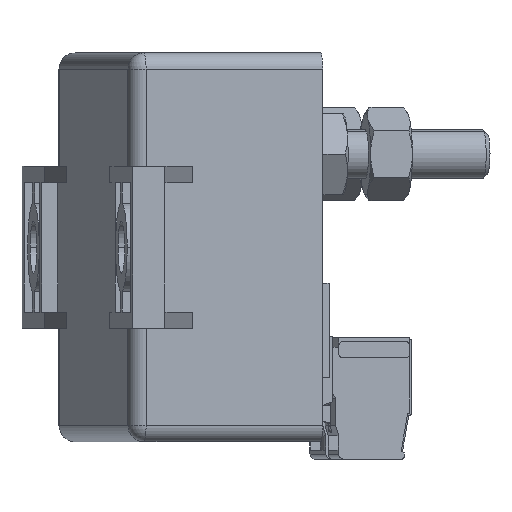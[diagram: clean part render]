
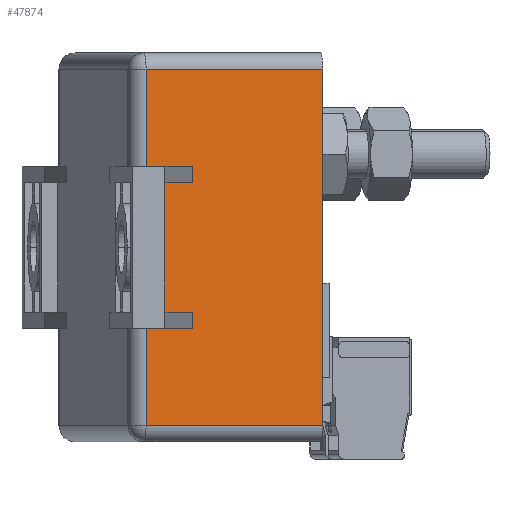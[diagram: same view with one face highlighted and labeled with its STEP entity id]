
A CAD part, left-side view. The second image highlights one B-rep face of the part: STEP entity #47874.
In plain terms, the highlighted planar face has unit normal (-0.992, -0.129, 0) as drawn and (-1, 0, 0) by its records, which use the part's own axes.
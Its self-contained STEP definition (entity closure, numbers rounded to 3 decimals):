
#370 = VERTEX_POINT ( 'NONE', #44954 ) ;
#2227 = EDGE_LOOP ( 'NONE', ( #60368, #46295, #107190, #32081, #90122, #103476, #106651, #87413, #45738, #91877, #113002, #32511 ) ) ;
#4919 = VECTOR ( 'NONE', #58032, 1000. ) ;
#6966 = EDGE_CURVE ( 'NONE', #370, #68008, #76333, .T. ) ;
#8466 = CARTESIAN_POINT ( 'NONE',  ( -35., -10., 7.799 ) ) ;
#9313 = CARTESIAN_POINT ( 'NONE',  ( -35., -10., 2.8 ) ) ;
#9825 = VERTEX_POINT ( 'NONE', #8466 ) ;
#18069 = VERTEX_POINT ( 'NONE', #112800 ) ;
#18669 = CARTESIAN_POINT ( 'NONE',  ( -35., -22., 2. ) ) ;
#18751 = DIRECTION ( 'NONE',  ( 0., 0., -1. ) ) ;
#18823 = CARTESIAN_POINT ( 'NONE',  ( -35., 22., 2. ) ) ;
#24483 = CARTESIAN_POINT ( 'NONE',  ( -35., 22., 2.8 ) ) ;
#26514 = LINE ( 'NONE', #64737, #36711 ) ;
#27117 = DIRECTION ( 'NONE',  ( 0., 0., 1. ) ) ;
#28187 = LINE ( 'NONE', #66403, #45882 ) ;
#28761 = EDGE_CURVE ( 'NONE', #84322, #9825, #61722, .T. ) ;
#31252 = VECTOR ( 'NONE', #120179, 1000. ) ;
#32081 = ORIENTED_EDGE ( 'NONE', *, *, #51615, .F. ) ;
#32511 = ORIENTED_EDGE ( 'NONE', *, *, #28761, .T. ) ;
#33728 = LINE ( 'NONE', #109537, #74527 ) ;
#33792 = VERTEX_POINT ( 'NONE', #50808 ) ;
#36711 = VECTOR ( 'NONE', #122373, 1000. ) ;
#38049 = DIRECTION ( 'NONE',  ( 0., -1., 0. ) ) ;
#43887 = EDGE_CURVE ( 'NONE', #9825, #370, #57565, .T. ) ;
#44579 = DIRECTION ( 'NONE',  ( 1., 0., 0. ) ) ;
#44954 = CARTESIAN_POINT ( 'NONE',  ( -35., -10., 2. ) ) ;
#45738 = ORIENTED_EDGE ( 'NONE', *, *, #104089, .F. ) ;
#45882 = VECTOR ( 'NONE', #104008, 1000. ) ;
#46295 = ORIENTED_EDGE ( 'NONE', *, *, #6966, .T. ) ;
#46486 = AXIS2_PLACEMENT_3D ( 'NONE', #24483, #44579, #82185 ) ;
#47874 = ADVANCED_FACE ( 'NONE', ( #81558 ), #72139, .F. ) ;
#49858 = VECTOR ( 'NONE', #94181, 1000. ) ;
#49993 = VERTEX_POINT ( 'NONE', #57675 ) ;
#50024 = VERTEX_POINT ( 'NONE', #18823 ) ;
#50808 = CARTESIAN_POINT ( 'NONE',  ( -35., 10., 2. ) ) ;
#51615 = EDGE_CURVE ( 'NONE', #63240, #93137, #66214, .T. ) ;
#52808 = VECTOR ( 'NONE', #103386, 1000. ) ;
#56465 = EDGE_CURVE ( 'NONE', #93137, #68008, #102007, .T. ) ;
#57565 = LINE ( 'NONE', #9313, #52808 ) ;
#57675 = CARTESIAN_POINT ( 'NONE',  ( -35., 10., 7.799 ) ) ;
#57884 = VECTOR ( 'NONE', #89304, 1000. ) ;
#58032 = DIRECTION ( 'NONE',  ( 0., -1., 0. ) ) ;
#58109 = CARTESIAN_POINT ( 'NONE',  ( -35., 22., 2. ) ) ;
#59662 = VECTOR ( 'NONE', #18751, 1000. ) ;
#60368 = ORIENTED_EDGE ( 'NONE', *, *, #43887, .T. ) ;
#61722 = LINE ( 'NONE', #99364, #57884 ) ;
#63240 = VERTEX_POINT ( 'NONE', #102722 ) ;
#64700 = VECTOR ( 'NONE', #27117, 1000. ) ;
#64737 = CARTESIAN_POINT ( 'NONE',  ( -35., 8., 2. ) ) ;
#65945 = CARTESIAN_POINT ( 'NONE',  ( -35., 10., 2.8 ) ) ;
#66214 = LINE ( 'NONE', #104433, #4919 ) ;
#66403 = CARTESIAN_POINT ( 'NONE',  ( -35., -8., 2. ) ) ;
#68008 = VERTEX_POINT ( 'NONE', #18669 ) ;
#70263 = EDGE_CURVE ( 'NONE', #33792, #49993, #112936, .T. ) ;
#70338 = EDGE_CURVE ( 'NONE', #115562, #113563, #26514, .T. ) ;
#70722 = DIRECTION ( 'NONE',  ( 0., -1., 0. ) ) ;
#72139 = PLANE ( 'NONE',  #46486 ) ;
#74527 = VECTOR ( 'NONE', #70722, 1000. ) ;
#76333 = LINE ( 'NONE', #58109, #85690 ) ;
#77988 = EDGE_CURVE ( 'NONE', #49993, #18069, #33728, .T. ) ;
#81558 = FACE_OUTER_BOUND ( 'NONE', #2227, .T. ) ;
#81962 = CARTESIAN_POINT ( 'NONE',  ( -35., -22., 2.8 ) ) ;
#82185 = DIRECTION ( 'NONE',  ( 0., 1., 0. ) ) ;
#84322 = VERTEX_POINT ( 'NONE', #112087 ) ;
#85690 = VECTOR ( 'NONE', #94501, 1000. ) ;
#86706 = CARTESIAN_POINT ( 'NONE',  ( -35., -8., 2. ) ) ;
#87413 = ORIENTED_EDGE ( 'NONE', *, *, #77988, .T. ) ;
#87649 = EDGE_CURVE ( 'NONE', #115562, #84322, #28187, .T. ) ;
#87704 = CARTESIAN_POINT ( 'NONE',  ( -35., 22., 2.8 ) ) ;
#89039 = LINE ( 'NONE', #110304, #100147 ) ;
#89304 = DIRECTION ( 'NONE',  ( 0., -1., 0. ) ) ;
#90122 = ORIENTED_EDGE ( 'NONE', *, *, #116330, .T. ) ;
#91877 = ORIENTED_EDGE ( 'NONE', *, *, #70338, .F. ) ;
#93137 = VERTEX_POINT ( 'NONE', #119128 ) ;
#94181 = DIRECTION ( 'NONE',  ( 0., 0., 1. ) ) ;
#94501 = DIRECTION ( 'NONE',  ( 0., -1., 0. ) ) ;
#97096 = CARTESIAN_POINT ( 'NONE',  ( -35., 8., 2. ) ) ;
#99364 = CARTESIAN_POINT ( 'NONE',  ( -35., 24., 7.799 ) ) ;
#100147 = VECTOR ( 'NONE', #38049, 1000. ) ;
#102007 = LINE ( 'NONE', #81962, #31252 ) ;
#102722 = CARTESIAN_POINT ( 'NONE',  ( -35., 22., 24. ) ) ;
#103386 = DIRECTION ( 'NONE',  ( 0., 0., -1. ) ) ;
#103476 = ORIENTED_EDGE ( 'NONE', *, *, #118452, .T. ) ;
#104008 = DIRECTION ( 'NONE',  ( 0., 0., 1. ) ) ;
#104089 = EDGE_CURVE ( 'NONE', #113563, #18069, #115427, .T. ) ;
#104433 = CARTESIAN_POINT ( 'NONE',  ( -35., 22., 24. ) ) ;
#106506 = LINE ( 'NONE', #87704, #59662 ) ;
#106651 = ORIENTED_EDGE ( 'NONE', *, *, #70263, .T. ) ;
#107190 = ORIENTED_EDGE ( 'NONE', *, *, #56465, .F. ) ;
#109537 = CARTESIAN_POINT ( 'NONE',  ( -35., 24., 7.799 ) ) ;
#110304 = CARTESIAN_POINT ( 'NONE',  ( -35., 22., 2. ) ) ;
#112087 = CARTESIAN_POINT ( 'NONE',  ( -35., -8., 7.799 ) ) ;
#112800 = CARTESIAN_POINT ( 'NONE',  ( -35., 8., 7.799 ) ) ;
#112936 = LINE ( 'NONE', #65945, #64700 ) ;
#113002 = ORIENTED_EDGE ( 'NONE', *, *, #87649, .T. ) ;
#113563 = VERTEX_POINT ( 'NONE', #97096 ) ;
#114811 = CARTESIAN_POINT ( 'NONE',  ( -35., 8., 2. ) ) ;
#115427 = LINE ( 'NONE', #114811, #49858 ) ;
#115562 = VERTEX_POINT ( 'NONE', #86706 ) ;
#116330 = EDGE_CURVE ( 'NONE', #63240, #50024, #106506, .T. ) ;
#118452 = EDGE_CURVE ( 'NONE', #50024, #33792, #89039, .T. ) ;
#119128 = CARTESIAN_POINT ( 'NONE',  ( -35., -22., 24. ) ) ;
#120179 = DIRECTION ( 'NONE',  ( 0., 0., -1. ) ) ;
#122373 = DIRECTION ( 'NONE',  ( 0., 1., 0. ) ) ;
